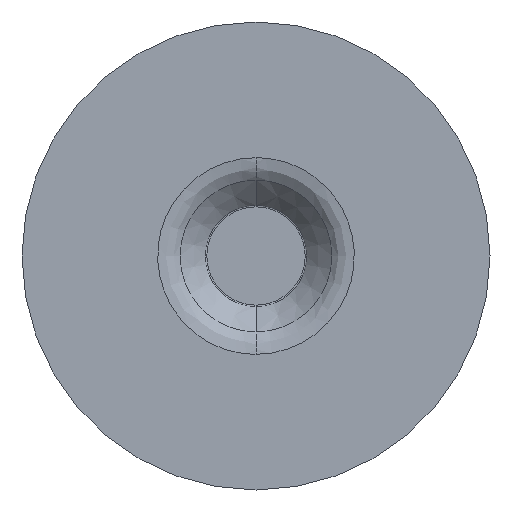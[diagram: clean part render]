
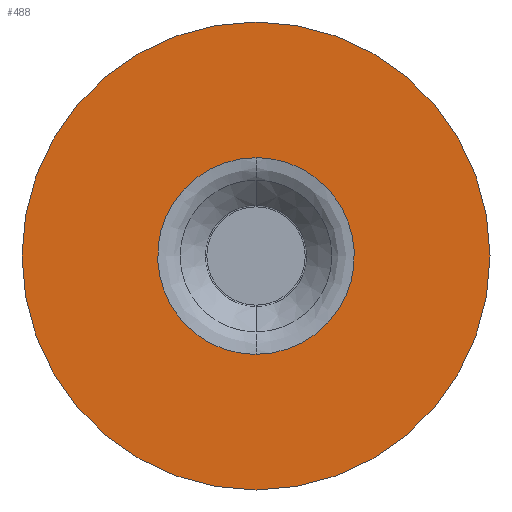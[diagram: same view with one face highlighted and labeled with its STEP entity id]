
A CAD part, front view. The second image highlights one B-rep face of the part: STEP entity #488.
In plain terms, the highlighted planar face has unit normal (0, -1, 0).
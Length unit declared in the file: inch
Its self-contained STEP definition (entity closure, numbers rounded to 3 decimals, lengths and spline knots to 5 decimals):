
#2 = DIRECTION ( 'NONE',  ( 0., 0., 1. ) ) ;
#5 = DIRECTION ( 'NONE',  ( 0., 0., 1. ) ) ;
#11 = CIRCLE ( 'NONE', #525, 1. ) ;
#18 = CARTESIAN_POINT ( 'NONE',  ( 0., -0.275, -1. ) ) ;
#21 = AXIS2_PLACEMENT_3D ( 'NONE', #385, #200, #256 ) ;
#24 = CIRCLE ( 'NONE', #21, 1. ) ;
#130 = AXIS2_PLACEMENT_3D ( 'NONE', #726, #133, #2 ) ;
#133 = DIRECTION ( 'NONE',  ( 0., 1., 0. ) ) ;
#151 = VERTEX_POINT ( 'NONE', #697 ) ;
#163 = VERTEX_POINT ( 'NONE', #18 ) ;
#175 = ORIENTED_EDGE ( 'NONE', *, *, #231, .F. ) ;
#200 = DIRECTION ( 'NONE',  ( 0., 1., 0. ) ) ;
#231 = EDGE_CURVE ( 'NONE', #151, #469, #654, .T. ) ;
#256 = DIRECTION ( 'NONE',  ( 0., 0., 1. ) ) ;
#300 = EDGE_LOOP ( 'NONE', ( #422, #398 ) ) ;
#343 = EDGE_CURVE ( 'NONE', #786, #163, #24, .T. ) ;
#350 = CARTESIAN_POINT ( 'NONE',  ( 0., -0.275, 0.42006 ) ) ;
#351 = EDGE_LOOP ( 'NONE', ( #175, #486 ) ) ;
#359 = CARTESIAN_POINT ( 'NONE',  ( 0., -0.275, -0.42006 ) ) ;
#385 = CARTESIAN_POINT ( 'NONE',  ( 0., -0.275, 0. ) ) ;
#398 = ORIENTED_EDGE ( 'NONE', *, *, #722, .F. ) ;
#416 = CARTESIAN_POINT ( 'NONE',  ( -0.84012, -0.275, 0.42006 ) ) ;
#418 = FACE_BOUND ( 'NONE', #351, .T. ) ;
#419 = CARTESIAN_POINT ( 'NONE',  ( 0., -0.275, -0.42006 ) ) ;
#422 = ORIENTED_EDGE ( 'NONE', *, *, #343, .F. ) ;
#425 = EDGE_CURVE ( 'NONE', #469, #151, #740, .T. ) ;
#427 = CARTESIAN_POINT ( 'NONE',  ( 0.84012, -0.275, -0.42006 ) ) ;
#468 = CARTESIAN_POINT ( 'NONE',  ( -0.84012, -0.275, -0.42006 ) ) ;
#469 = VERTEX_POINT ( 'NONE', #359 ) ;
#486 = ORIENTED_EDGE ( 'NONE', *, *, #425, .F. ) ;
#488 = ADVANCED_FACE ( 'NONE', ( #418, #623 ), #797, .F. ) ;
#525 = AXIS2_PLACEMENT_3D ( 'NONE', #671, #609, #5 ) ;
#553 = CARTESIAN_POINT ( 'NONE',  ( 0., -0.275, -0.42006 ) ) ;
#609 = DIRECTION ( 'NONE',  ( 0., 1., 0. ) ) ;
#616 = CARTESIAN_POINT ( 'NONE',  ( 0.84012, -0.275, 0.42006 ) ) ;
#623 = FACE_OUTER_BOUND ( 'NONE', #300, .T. ) ;
#654 =( BOUNDED_CURVE ( )  B_SPLINE_CURVE ( 3, ( #350, #416, #468, #419 ),
 .UNSPECIFIED., .F., .F. ) 
 B_SPLINE_CURVE_WITH_KNOTS ( ( 4, 4 ),
 ( 0., 1. ),
 .UNSPECIFIED. ) 
 CURVE ( )  GEOMETRIC_REPRESENTATION_ITEM ( )  RATIONAL_B_SPLINE_CURVE ( ( 1., 0.333, 0.333, 1. ) ) 
 REPRESENTATION_ITEM ( '' )  );
#671 = CARTESIAN_POINT ( 'NONE',  ( 0., -0.275, 0. ) ) ;
#676 = CARTESIAN_POINT ( 'NONE',  ( 0., -0.275, 1. ) ) ;
#697 = CARTESIAN_POINT ( 'NONE',  ( 0., -0.275, 0.42006 ) ) ;
#722 = EDGE_CURVE ( 'NONE', #163, #786, #11, .T. ) ;
#726 = CARTESIAN_POINT ( 'NONE',  ( 0.42006, -0.275, 0. ) ) ;
#740 =( BOUNDED_CURVE ( )  B_SPLINE_CURVE ( 3, ( #553, #427, #616, #794 ),
 .UNSPECIFIED., .F., .T. ) 
 B_SPLINE_CURVE_WITH_KNOTS ( ( 4, 4 ),
 ( 0., 1. ),
 .UNSPECIFIED. ) 
 CURVE ( )  GEOMETRIC_REPRESENTATION_ITEM ( )  RATIONAL_B_SPLINE_CURVE ( ( 1., 0.333, 0.333, 1. ) ) 
 REPRESENTATION_ITEM ( '' )  );
#786 = VERTEX_POINT ( 'NONE', #676 ) ;
#794 = CARTESIAN_POINT ( 'NONE',  ( 0., -0.275, 0.42006 ) ) ;
#797 = PLANE ( 'NONE',  #130 ) ;
